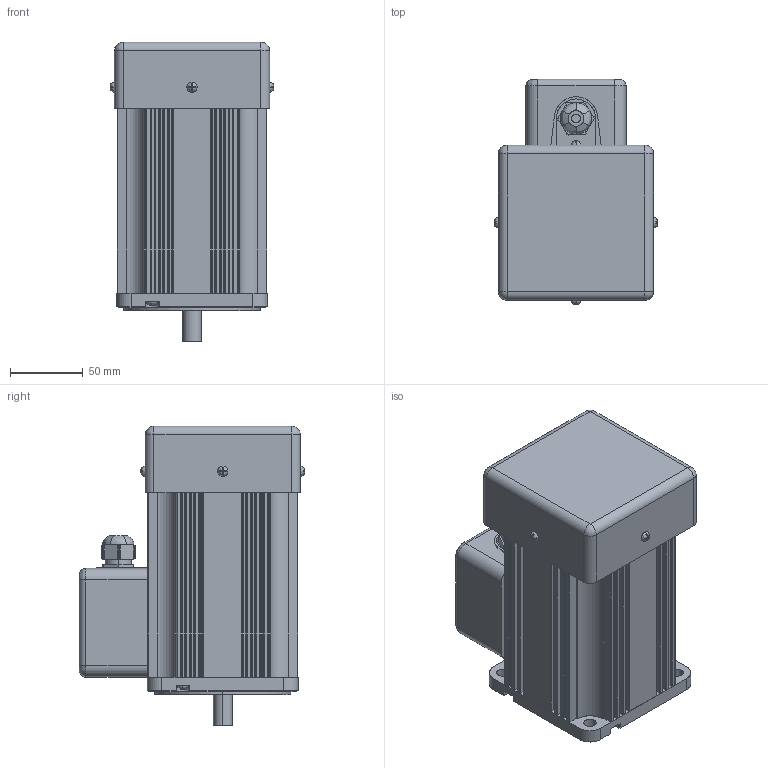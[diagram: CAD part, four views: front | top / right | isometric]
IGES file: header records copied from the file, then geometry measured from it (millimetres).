
Start section: SolidWorks IGES file using analytic representation for surfaces
Global section: file name: C:\Documents and Settings\user\官帕 拳搁\2015 墨呕肺弊 档搁荐沥\权其捞瘤 档搁\1. INDUCTION\104\250W\(1-280) 10IDGE-250FU-T.IGS; native system: SolidWorks 2007; preprocessor: SolidWorks 2007; author: user; date: 150323.142506; units: millimetre
Bounding box: 112.99 x 155.49 x 206.5 mm (x, y, z)
Surface area: 188819.1 mm2 (no closed solid volume)
Topology: 0 solids, 0 shells, 508 faces, 6434 edges, 6426 vertices
Faces by surface type: bspline 302, revolution 206
